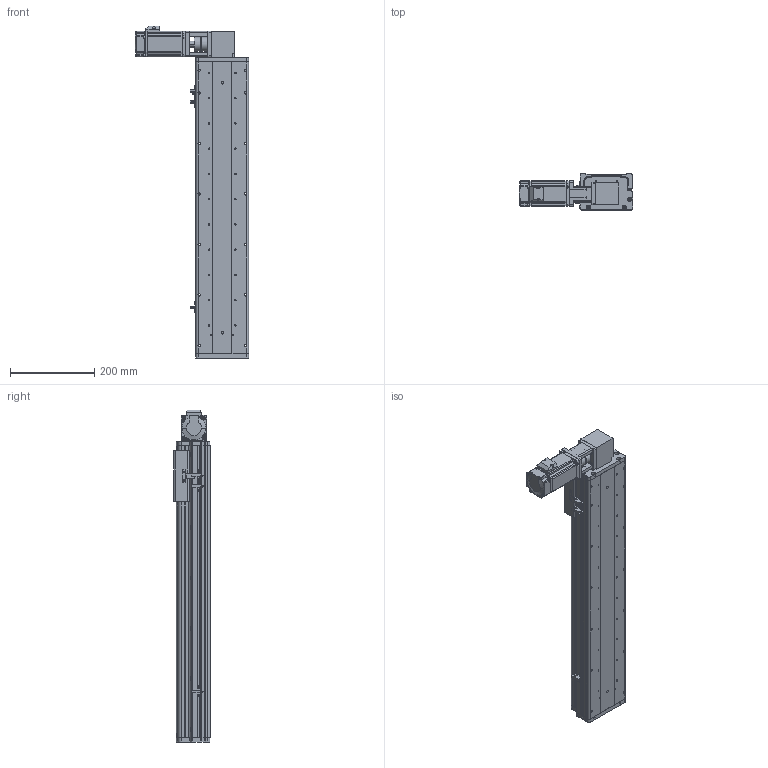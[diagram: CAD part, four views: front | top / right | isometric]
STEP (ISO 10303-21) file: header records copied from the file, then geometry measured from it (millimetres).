
FILE_DESCRIPTION (( 'STEP AP214' ), '1' );
FILE_NAME ('KSD125B-S500-MRT-CM.STEP', '2017-08-07T07:23:27', ( '微软用户' ), ( '微软中国' ), 'SwSTEP 2.0', 'SolidWorks 2014', '' );
FILE_SCHEMA (( 'AUTOMOTIVE_DESIGN' ));
Length unit declared in the file: millimetre
Products named in the file (16): U倰嫖萇EEㄜSX672; KSD125模组同步带-防撞垫1; 100宽安装板同步带带电机座400W,86; 100宽马达安装板同步带右; 前端板-125宽模组同步带; 125模组同步带-尾端板1; KSD125模组500行程同步带-防尘盖; KSD125模组同步带-滑动座1; 125模组500行程同步带-底板; KSD125B-S500-MRT-CM; MHMD042G1CA_2_03; KSD125模组同步带-防撞垫2; CS-34X32-10X14; 100遵鎮湛假蚾啣1 ; 覜茼え68遵圉猾敕; U倰嫖萇假蚾璃
Assembly tree (19 placements, depth 2):
  KSD125B-S500-MRT-CM
    125模组500行程同步带-底板
    KSD125模组同步带-滑动座1
    KSD125模组500行程同步带-防尘盖
    125模组同步带-尾端板1
    前端板-125宽模组同步带
    100宽马达安装板同步带右
    100宽安装板同步带带电机座400W,86
    KSD125模组同步带-防撞垫1
    U倰嫖萇EEㄜSX672  x3
    U倰嫖萇假蚾璃  x3
    覜茼え68遵圉猾敕
    100遵鎮湛假蚾啣1 
    CS-34X32-10X14
    KSD125模组同步带-防撞垫2
    MHMD042G1CA_2_03
Bounding box: 269 x 86 x 789 mm (x, y, z)
Volume: 2572754.3 mm3; surface area: 868543.4 mm2
Topology: 18 solids, 21 shells, 1652 faces, 4732 edges, 3120 vertices
Faces by surface type: cylinder 849, plane 700, cone 81, bspline 22
Entity records: 57792 total; most frequent: CARTESIAN_POINT 11738, DIRECTION 8451, ORIENTED_EDGE 7984, EDGE_CURVE 4070, AXIS2_PLACEMENT_3D 3129, VERTEX_POINT 2712, LINE 2193, VECTOR 2193
